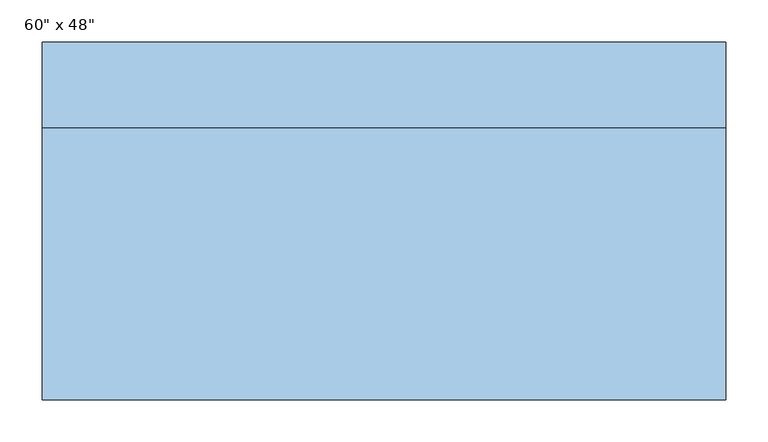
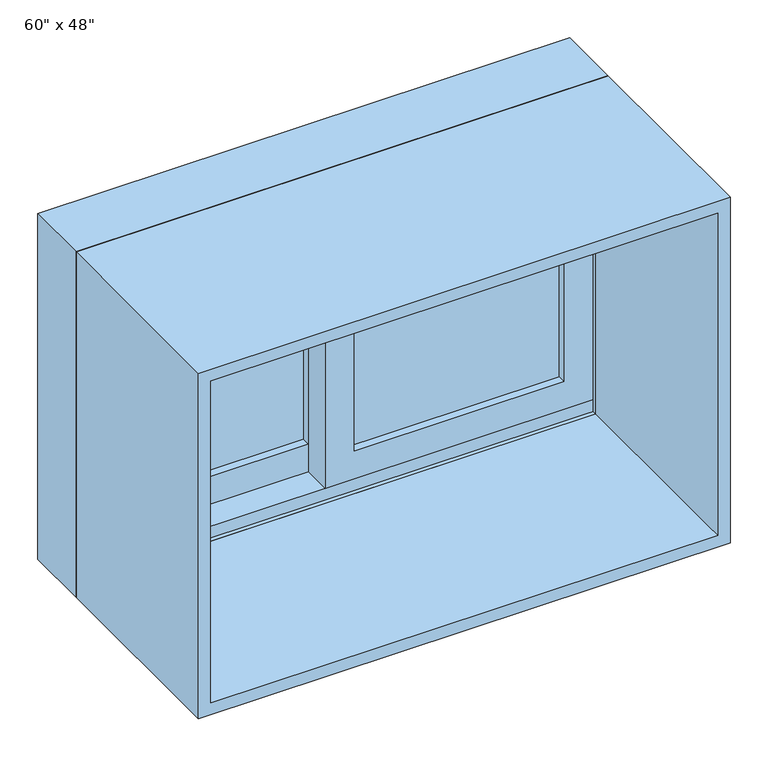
"""IFC4 building model written with IfcOpenShell, lengths in millimetres: window geometry."""

from ifc_helpers import new_model, si_unit, frame, origin, place, context, project, spatial, polyline, outline, extrude, faceted_brep, source, transform, mapped, element, save


def window_9998ee06(model_context):
    return source(origin(), model_context, "Body", "SolidModel", [
        extrude(outline(polyline([(933.45, -387.35), (933.45, 22.225), (1454.15, 22.225), (1454.15, -387.35), (933.45, -387.35)]), holes=[polyline([(1409.7, -22.225), (996.95, -22.225), (996.95, -342.9), (1409.7, -342.9), (1409.7, -22.225)])]), frame((0.0, 167.64, 0.0), z_axis=(0.0, 1.0, 0.0), x_axis=(0.0, 0.0, 1.0)), (0.0, 0.0, 1.0), 44.45),
        extrude(outline(polyline([(952.5, 387.35), (1454.15, 387.35), (1454.15, -22.225), (952.5, -22.225), (952.5, 387.35)]), holes=[polyline([(996.95, 22.225), (1409.7, 22.225), (1409.7, 342.9), (996.95, 342.9), (996.95, 22.225)])]), frame((0.0, 123.19, 0.0), z_axis=(0.0, 1.0, 0.0), x_axis=(0.0, 0.0, 1.0)), (0.0, 0.0, 1.0), 44.45),
        faceted_brep([(-406.4, 116.84, 914.4), (-406.4, 218.44, 914.4), (406.4, 218.44, 914.4), (406.4, 116.84, 914.4), (-365.4778905, 218.44, 1432.2778905), (-365.4778905, 212.09, 1432.2778905), (-365.4778905, 212.09, 933.45), (-365.4778905, 218.44, 933.45), (365.4778905, 212.09, 1432.2778905), (365.4778905, 212.09, 933.45), (387.35, 212.09, 933.45), (387.35, 212.09, 1454.15), (-387.35, 212.09, 1454.15), (-387.35, 212.09, 933.45), (-387.35, 116.84, 1454.15), (-387.35, 116.84, 933.45), (-387.35, 123.19, 933.45), (-387.35, 123.19, 952.5), (-387.35, 167.64, 952.5), (-387.35, 167.64, 933.45), (406.4, 116.84, 1473.2), (-406.4, 116.84, 1473.2), (387.35, 116.84, 1454.15), (387.35, 116.84, 933.45), (-406.4, 218.44, 1473.2), (406.4, 218.44, 1473.2), (365.4778905, 218.44, 933.45), (365.4778905, 218.44, 1432.2778905), (387.35, 167.64, 933.45), (387.35, 167.64, 952.5), (387.35, 123.19, 952.5), (387.35, 123.19, 933.45)], [[[0, 1, 2, 3]], [[4, 5, 6, 7]], [[5, 8, 9, 10, 11, 12, 13, 6]], [[12, 14, 15, 16, 17, 18, 19, 13]], [[0, 3, 20, 21], [22, 23, 15, 14]], [[24, 1, 0, 21]], [[2, 1, 24, 25], [4, 7, 26, 27]], [[5, 4, 27, 8]], [[12, 11, 22, 14]], [[21, 20, 25, 24]], [[8, 27, 26, 9]], [[22, 11, 10, 28, 29, 30, 31, 23]], [[20, 3, 2, 25]], [[26, 7, 6, 13, 19, 28, 10, 9]], [[28, 19, 18, 29]], [[29, 18, 17, 30]], [[30, 17, 16, 31]], [[15, 23, 31, 16]]]),
        extrude(outline(polyline([(1473.2, -406.4), (914.4, -406.4), (914.4, 406.4), (1473.2, 406.4), (1473.2, -406.4)]), holes=[polyline([(1454.15, 387.35), (933.45, 387.35), (933.45, -387.35), (1454.15, -387.35), (1454.15, 387.35)])]), frame((0.0, -207.01, 0.0), z_axis=(0.0, 1.0, 0.0), x_axis=(0.0, 0.0, 1.0)), (0.0, 0.0, 1.0), 323.85),
        extrude(outline(polyline([(342.9, 154.94), (342.9, 148.59), (22.225, 148.59), (22.225, 154.94), (342.9, 154.94)])), frame((0.0, 0.0, 996.95), z_axis=(0.0, 0.0, 1.0), x_axis=(1.0, 0.0, 0.0)), (0.0, 0.0, 1.0), 412.75),
        extrude(outline(polyline([(342.9, 142.24), (342.9, 135.89), (22.225, 135.89), (22.225, 142.24), (342.9, 142.24)])), frame((0.0, 0.0, 996.95), z_axis=(0.0, 0.0, 1.0), x_axis=(1.0, 0.0, 0.0)), (0.0, 0.0, 1.0), 412.75),
        extrude(outline(polyline([(-22.225, 199.39), (-22.225, 193.04), (-342.9, 193.04), (-342.9, 199.39), (-22.225, 199.39)])), frame((0.0, 0.0, 996.95), z_axis=(0.0, 0.0, 1.0), x_axis=(1.0, 0.0, 0.0)), (0.0, 0.0, 1.0), 412.75),
        extrude(outline(polyline([(-22.225, 186.69), (-22.225, 180.34), (-342.9, 180.34), (-342.9, 186.69), (-22.225, 186.69)])), frame((0.0, 0.0, 996.95), z_axis=(0.0, 0.0, 1.0), x_axis=(1.0, 0.0, 0.0)), (0.0, 0.0, 1.0), 412.75),
    ])


if __name__ == "__main__":
    model = new_model("IFC4")
    model_context = context("Model", 3, world=origin())
    ifc_project = project(units=[si_unit("LENGTHUNIT", "METRE", prefix="MILLI")], contexts=[model_context])
    site = spatial("IfcSite", under=ifc_project)
    building = spatial("IfcBuilding", under=site)
    placement = place(None, origin())
    window_shape = window_9998ee06(model_context)
    element("IfcWindow", 1, ObjectType="Planitar-Sliding-Double : 60\" x 48\"", at=placement, inside=building, context=model_context, shape_type="MappedRepresentation", body=[
        mapped(window_shape, transform((0.0, 0.0, 0.0), x_axis=(1.0, 0.0, 0.0), y_axis=(0.0, 1.0, 0.0), z_axis=(0.0, 0.0, 1.0))),
    ])
    save(model, "model.ifc")
